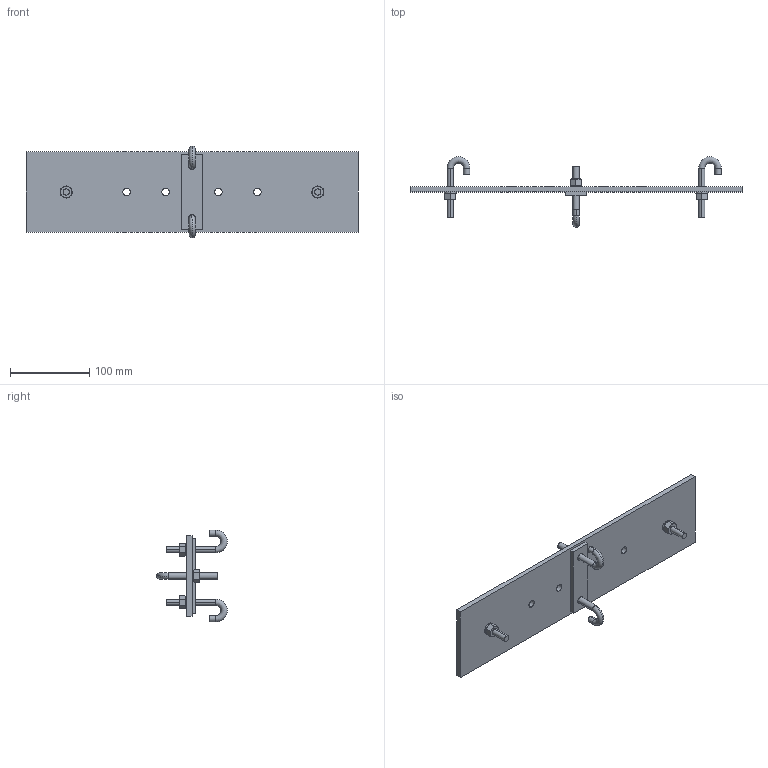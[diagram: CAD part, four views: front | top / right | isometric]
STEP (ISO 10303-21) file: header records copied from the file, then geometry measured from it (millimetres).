
FILE_DESCRIPTION (( 'STEP AP203' ), '1' );
FILE_NAME ('lrrmpblk15.STEP', '2015-05-21T17:21:49', ( '' ), ( '' ), 'SwSTEP 2.0', 'SolidWorks 2010', '' );
FILE_SCHEMA (( 'CONFIG_CONTROL_DESIGN' ));
Length unit declared in the file: inch
Products named in the file (6): lrrmpblk15; Hook; MountingPlate_15inWide; Nut.31; WasherLock.31; FlatBar
Assembly tree (14 placements, depth 2):
  lrrmpblk15
    FlatBar
    Hook  x4
    MountingPlate_15inWide
    Nut.31  x4
    WasherLock.31  x4
Bounding box: 419.1 x 88.9 x 115.86 mm (x, y, z)
Volume: 303321.8 mm3; surface area: 113551.8 mm2
Topology: 14 solids, 14 shells, 200 faces, 436 edges, 264 vertices
Faces by surface type: plane 68, cone 64, cylinder 60, torus 8
Entity records: 3170 total; most frequent: CARTESIAN_POINT 499, DIRECTION 408, ORIENTED_EDGE 344, EDGE_CURVE 172, AXIS2_PLACEMENT_3D 169, VERTEX_POINT 108, EDGE_LOOP 96, CIRCLE 78
